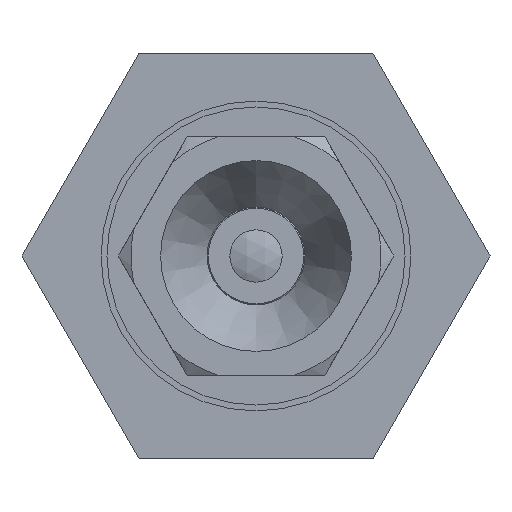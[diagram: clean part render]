
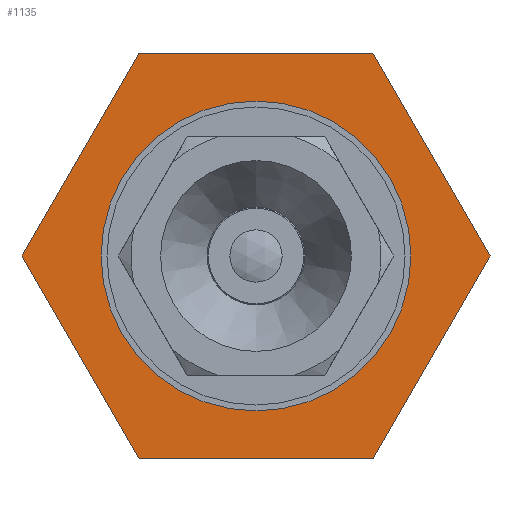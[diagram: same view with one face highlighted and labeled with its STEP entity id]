
A CAD part, front view. The second image highlights one B-rep face of the part: STEP entity #1135.
In plain terms, the highlighted planar face has unit normal (0, -1, 0) as drawn and (-1, 0, 0) by its records, which use the part's own axes.
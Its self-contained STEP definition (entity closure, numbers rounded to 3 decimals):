
#52=LINE('',#2348,#88);
#55=LINE('',#2354,#91);
#58=LINE('',#2360,#94);
#61=LINE('',#2366,#97);
#64=LINE('',#2372,#100);
#67=LINE('',#2377,#103);
#88=VECTOR('',#1937,1000.);
#91=VECTOR('',#1942,1000.);
#94=VECTOR('',#1947,1000.);
#97=VECTOR('',#1952,1000.);
#100=VECTOR('',#1957,1000.);
#103=VECTOR('',#1962,1000.);
#329=ORIENTED_EDGE('',*,*,#517,.F.);
#330=ORIENTED_EDGE('',*,*,#516,.F.);
#331=ORIENTED_EDGE('',*,*,#513,.F.);
#332=ORIENTED_EDGE('',*,*,#510,.F.);
#333=ORIENTED_EDGE('',*,*,#507,.F.);
#334=ORIENTED_EDGE('',*,*,#504,.F.);
#335=ORIENTED_EDGE('',*,*,#501,.F.);
#501=EDGE_CURVE('',#612,#613,#52,.T.);
#504=EDGE_CURVE('',#613,#615,#55,.T.);
#507=EDGE_CURVE('',#615,#617,#58,.T.);
#510=EDGE_CURVE('',#617,#619,#61,.T.);
#513=EDGE_CURVE('',#619,#621,#64,.T.);
#516=EDGE_CURVE('',#621,#612,#67,.T.);
#517=EDGE_CURVE('',#622,#622,#696,.T.);
#612=VERTEX_POINT('',#2347);
#613=VERTEX_POINT('',#2349);
#615=VERTEX_POINT('',#2355);
#617=VERTEX_POINT('',#2361);
#619=VERTEX_POINT('',#2367);
#621=VERTEX_POINT('',#2373);
#622=VERTEX_POINT('',#2380);
#696=CIRCLE('',#1696,6.5);
#796=EDGE_LOOP('',(#329));
#797=EDGE_LOOP('',(#330,#331,#332,#333,#334,#335));
#955=FACE_BOUND('',#796,.T.);
#956=FACE_BOUND('',#797,.T.);
#1080=PLANE('',#1695);
#1135=ADVANCED_FACE('',(#955,#956),#1080,.F.);
#1695=AXIS2_PLACEMENT_3D('',#2378,#1963,#1964);
#1696=AXIS2_PLACEMENT_3D('',#2379,#1965,#1966);
#1937=DIRECTION('',(0.,-0.5,0.866));
#1942=DIRECTION('',(0.,-1.,0.));
#1947=DIRECTION('',(0.,-0.5,-0.866));
#1952=DIRECTION('',(0.,0.5,-0.866));
#1957=DIRECTION('',(0.,1.,0.));
#1962=DIRECTION('',(0.,0.5,0.866));
#1963=DIRECTION('',(1.,0.,0.));
#1964=DIRECTION('',(0.,0.,-1.));
#1965=DIRECTION('',(-1.,0.,0.));
#1966=DIRECTION('',(0.,0.,1.));
#2347=CARTESIAN_POINT('',(8.,9.815,0.));
#2348=CARTESIAN_POINT('',(8.,9.815,0.));
#2349=CARTESIAN_POINT('',(8.,4.907,8.5));
#2354=CARTESIAN_POINT('',(8.,4.907,8.5));
#2355=CARTESIAN_POINT('',(8.,-4.907,8.5));
#2360=CARTESIAN_POINT('',(8.,-4.907,8.5));
#2361=CARTESIAN_POINT('',(8.,-9.815,0.));
#2366=CARTESIAN_POINT('',(8.,-9.815,0.));
#2367=CARTESIAN_POINT('',(8.,-4.907,-8.5));
#2372=CARTESIAN_POINT('',(8.,-4.907,-8.5));
#2373=CARTESIAN_POINT('',(8.,4.907,-8.5));
#2377=CARTESIAN_POINT('',(8.,4.907,-8.5));
#2378=CARTESIAN_POINT('',(8.,0.,12.5));
#2379=CARTESIAN_POINT('',(8.,0.,0.));
#2380=CARTESIAN_POINT('',(8.,0.,6.5));
